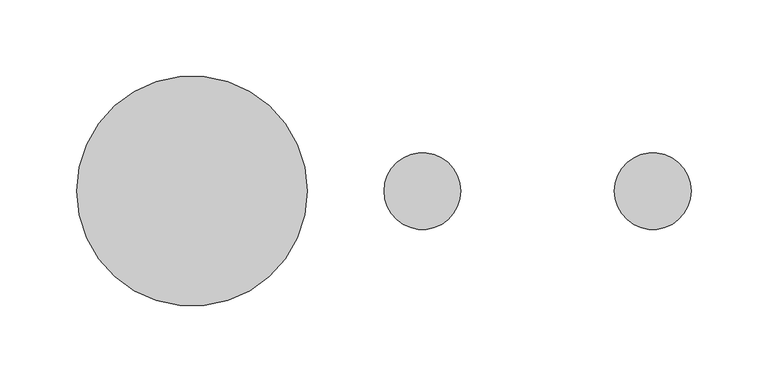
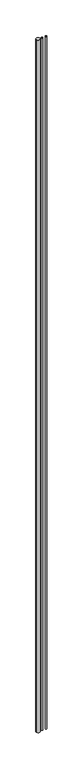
"""IFC4 building model written with IfcOpenShell, lengths in millimetres: flow terminal geometry, SP_Стояки : ГВ,ХВ,К."""

from ifc_helpers import new_model, si_unit, point, frame, frame_2d, origin, place, context, project, spatial, circle_curve, trimmed, segment, composite_curve, outline, extrude, source, transform, mapped, element, save


def flow_terminal_e0b5edaf(model_context):
    return source(origin(), model_context, "Body", "SweptSolid", [
        extrude(outline(composite_curve([segment(trimmed(circle_curve(frame_2d((400.0, 119.7596685)), 25.0), [point((375.0, 119.7596685))], [point((425.0, 119.7596685))], False, "CARTESIAN"), True, "CONTINUOUS"), segment(trimmed(circle_curve(frame_2d((400.0, 119.7596685)), 25.0), [point((425.0, 119.7596685))], [point((375.0, 119.7596685))], False, "CARTESIAN"), True, "CONTINUOUS")], self_intersect=False)), frame((0.0, 0.0, 1200.0), z_axis=(0.0, 0.0, 1.0), x_axis=(1.0, 0.0, 0.0)), (0.0, 0.0, 1.0), 27450.0),
        extrude(outline(composite_curve([segment(trimmed(circle_curve(frame_2d((250.0, 119.7596685)), 25.0), [point((225.0, 119.7596685))], [point((275.0, 119.7596685))], False, "CARTESIAN"), True, "CONTINUOUS"), segment(trimmed(circle_curve(frame_2d((250.0, 119.7596685)), 25.0), [point((275.0, 119.7596685))], [point((225.0, 119.7596685))], False, "CARTESIAN"), True, "CONTINUOUS")], self_intersect=False)), frame((0.0, 0.0, 1200.0), z_axis=(0.0, 0.0, 1.0), x_axis=(1.0, 0.0, 0.0)), (0.0, 0.0, 1.0), 27450.0),
        extrude(outline(composite_curve([segment(trimmed(circle_curve(frame_2d((100.0, 119.7596685)), 75.0), [point((25.0, 119.7596685))], [point((175.0, 119.7596685))], False, "CARTESIAN"), True, "CONTINUOUS"), segment(trimmed(circle_curve(frame_2d((100.0, 119.7596685)), 75.0), [point((175.0, 119.7596685))], [point((25.0, 119.7596685))], False, "CARTESIAN"), True, "CONTINUOUS")], self_intersect=False)), frame((0.0, 0.0, 1200.0), z_axis=(0.0, 0.0, 1.0), x_axis=(1.0, 0.0, 0.0)), (0.0, 0.0, 1.0), 27450.0),
    ])


if __name__ == "__main__":
    model = new_model("IFC4")
    model_context = context("Model", 3, world=origin())
    ifc_project = project(units=[si_unit("LENGTHUNIT", "METRE", prefix="MILLI")], contexts=[model_context])
    site = spatial("IfcSite", under=ifc_project)
    building = spatial("IfcBuilding", under=site)
    placement = place(None, origin())
    flow_terminal_shape = flow_terminal_e0b5edaf(model_context)
    element("IfcFlowTerminal", 1, ObjectType="SP_Стояки : ГВ,ХВ,К", at=placement, inside=building, context=model_context, shape_type="MappedRepresentation", body=[
        mapped(flow_terminal_shape, transform((0.0, 0.0, 0.0), x_axis=(1.0, 0.0, 0.0), y_axis=(0.0, 1.0, 0.0), z_axis=(0.0, 0.0, 1.0))),
    ])
    save(model, "model.ifc")
